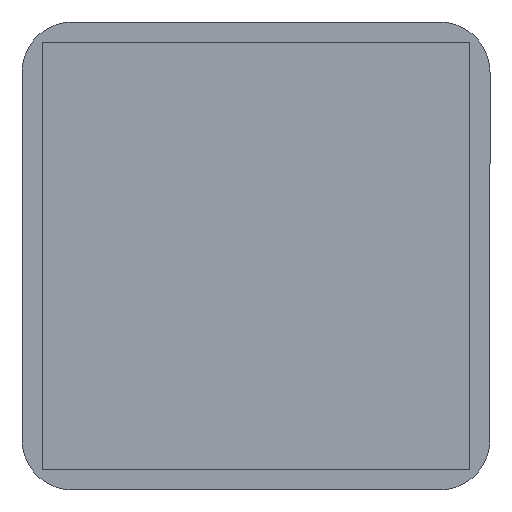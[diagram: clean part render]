
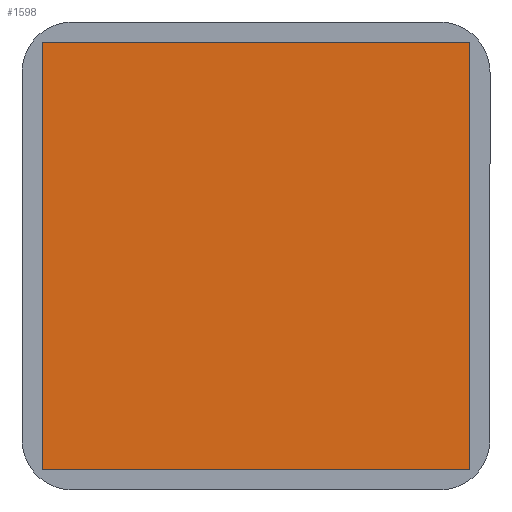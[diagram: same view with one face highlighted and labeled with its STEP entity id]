
A CAD part, front view. The second image highlights one B-rep face of the part: STEP entity #1598.
In plain terms, the highlighted planar face has unit normal (0, -1, 0).
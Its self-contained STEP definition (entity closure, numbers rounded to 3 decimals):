
#203 = VECTOR ( 'NONE', #607, 1000. ) ;
#572 = FACE_OUTER_BOUND ( 'NONE', #1438, .T. ) ;
#576 = LINE ( 'NONE', #3074, #985 ) ;
#607 = DIRECTION ( 'NONE',  ( 1., 0., 0. ) ) ;
#728 = VECTOR ( 'NONE', #824, 1000. ) ;
#765 = ORIENTED_EDGE ( 'NONE', *, *, #2327, .F. ) ;
#824 = DIRECTION ( 'NONE',  ( -1., 0., 0. ) ) ;
#885 = DIRECTION ( 'NONE',  ( 0., 1., 0. ) ) ;
#964 = CARTESIAN_POINT ( 'NONE',  ( -8.5, -0.127, -8.5 ) ) ;
#985 = VECTOR ( 'NONE', #3053, 1000. ) ;
#1176 = CARTESIAN_POINT ( 'NONE',  ( -8.5, -0.127, 8.5 ) ) ;
#1190 = LINE ( 'NONE', #2885, #203 ) ;
#1339 = ORIENTED_EDGE ( 'NONE', *, *, #2366, .F. ) ;
#1363 = VERTEX_POINT ( 'NONE', #3522 ) ;
#1381 = EDGE_CURVE ( 'NONE', #3037, #1800, #2949, .T. ) ;
#1438 = EDGE_LOOP ( 'NONE', ( #3187, #1339, #2626, #765 ) ) ;
#1598 = ADVANCED_FACE ( 'NONE', ( #572 ), #1789, .F. ) ;
#1729 = LINE ( 'NONE', #3424, #728 ) ;
#1789 = PLANE ( 'NONE',  #1817 ) ;
#1800 = VERTEX_POINT ( 'NONE', #3640 ) ;
#1817 = AXIS2_PLACEMENT_3D ( 'NONE', #1176, #885, #2025 ) ;
#2025 = DIRECTION ( 'NONE',  ( 0., 0., 1. ) ) ;
#2077 = EDGE_CURVE ( 'NONE', #1363, #2989, #576, .T. ) ;
#2103 = DIRECTION ( 'NONE',  ( 0., 0., 1. ) ) ;
#2327 = EDGE_CURVE ( 'NONE', #1800, #1363, #1190, .T. ) ;
#2366 = EDGE_CURVE ( 'NONE', #2989, #3037, #1729, .T. ) ;
#2626 = ORIENTED_EDGE ( 'NONE', *, *, #2077, .F. ) ;
#2885 = CARTESIAN_POINT ( 'NONE',  ( -8.5, -0.127, 8.5 ) ) ;
#2934 = CARTESIAN_POINT ( 'NONE',  ( 8.5, -0.127, -8.5 ) ) ;
#2949 = LINE ( 'NONE', #964, #3116 ) ;
#2989 = VERTEX_POINT ( 'NONE', #2934 ) ;
#3037 = VERTEX_POINT ( 'NONE', #3307 ) ;
#3053 = DIRECTION ( 'NONE',  ( 0., 0., -1. ) ) ;
#3074 = CARTESIAN_POINT ( 'NONE',  ( 8.5, -0.127, -8.5 ) ) ;
#3116 = VECTOR ( 'NONE', #2103, 1000. ) ;
#3187 = ORIENTED_EDGE ( 'NONE', *, *, #1381, .F. ) ;
#3307 = CARTESIAN_POINT ( 'NONE',  ( -8.5, -0.127, -8.5 ) ) ;
#3424 = CARTESIAN_POINT ( 'NONE',  ( -8.5, -0.127, -8.5 ) ) ;
#3522 = CARTESIAN_POINT ( 'NONE',  ( 8.5, -0.127, 8.5 ) ) ;
#3640 = CARTESIAN_POINT ( 'NONE',  ( -8.5, -0.127, 8.5 ) ) ;
